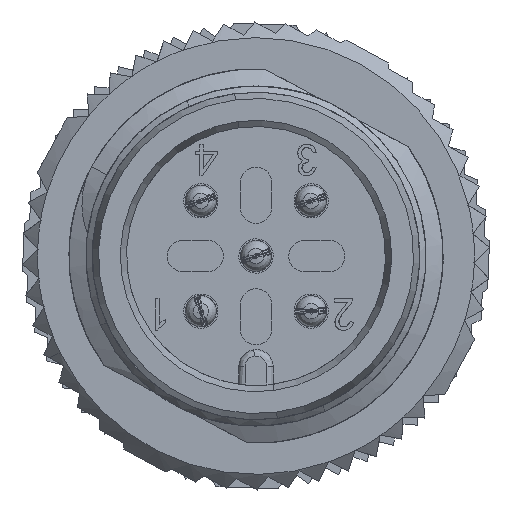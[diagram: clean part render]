
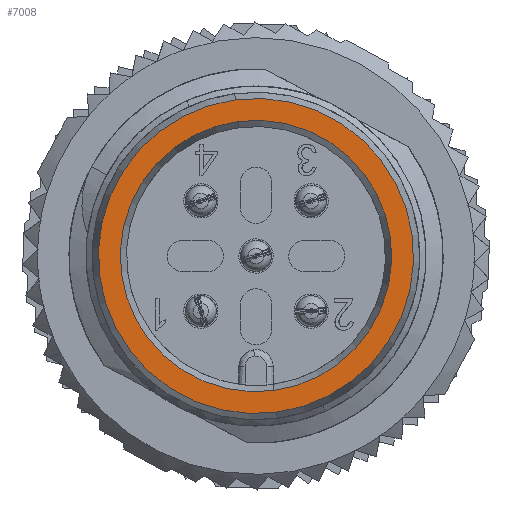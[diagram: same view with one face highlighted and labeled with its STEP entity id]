
A CAD part, left-side view. The second image highlights one B-rep face of the part: STEP entity #7008.
In plain terms, the highlighted planar face has unit normal (-1, 0, 0).
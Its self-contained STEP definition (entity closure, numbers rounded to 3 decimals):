
#1059 = AXIS2_PLACEMENT_3D ( 'NONE', #5084, #4355, #49909 ) ;
#1555 = CARTESIAN_POINT ( 'NONE',  ( -175.027, 0., -0.256 ) ) ;
#4061 = AXIS2_PLACEMENT_3D ( 'NONE', #1555, #25071, #8151 ) ;
#4355 = DIRECTION ( 'NONE',  ( 1., 0., 0. ) ) ;
#5084 = CARTESIAN_POINT ( 'NONE',  ( -175.027, 0., -0.256 ) ) ;
#5790 = VERTEX_POINT ( 'NONE', #68508 ) ;
#7008 = ADVANCED_FACE ( 'NONE', ( #48905, #38621 ), #65812, .T. ) ;
#8151 = DIRECTION ( 'NONE',  ( 0., -0.13, -0.991 ) ) ;
#10008 = EDGE_CURVE ( 'NONE', #10242, #17275, #58017, .T. ) ;
#10180 = DIRECTION ( 'NONE',  ( 1., 0., 0. ) ) ;
#10242 = VERTEX_POINT ( 'NONE', #35908 ) ;
#12309 = AXIS2_PLACEMENT_3D ( 'NONE', #72646, #10180, #65671 ) ;
#17275 = VERTEX_POINT ( 'NONE', #36383 ) ;
#18384 = AXIS2_PLACEMENT_3D ( 'NONE', #37906, #66894, #32394 ) ;
#19855 = CIRCLE ( 'NONE', #1059, 4.35 ) ;
#23396 = CIRCLE ( 'NONE', #25743, 5.05 ) ;
#24938 = EDGE_CURVE ( 'NONE', #62959, #5790, #52206, .T. ) ;
#25071 = DIRECTION ( 'NONE',  ( 1., 0., 0. ) ) ;
#25232 = DIRECTION ( 'NONE',  ( 0., -0.13, -0.991 ) ) ;
#25743 = AXIS2_PLACEMENT_3D ( 'NONE', #60457, #31117, #25232 ) ;
#31117 = DIRECTION ( 'NONE',  ( 1., 0., 0. ) ) ;
#32394 = DIRECTION ( 'NONE',  ( 0., 1., 0. ) ) ;
#35849 = EDGE_CURVE ( 'NONE', #5790, #62959, #19855, .T. ) ;
#35908 = CARTESIAN_POINT ( 'NONE',  ( -175.027, 0.659, 4.751 ) ) ;
#36383 = CARTESIAN_POINT ( 'NONE',  ( -175.027, -0.659, -5.262 ) ) ;
#37906 = CARTESIAN_POINT ( 'NONE',  ( -175.027, -3.324, 3.068 ) ) ;
#38621 = FACE_BOUND ( 'NONE', #39212, .T. ) ;
#39212 = EDGE_LOOP ( 'NONE', ( #40086, #66396 ) ) ;
#40086 = ORIENTED_EDGE ( 'NONE', *, *, #35849, .T. ) ;
#40373 = CARTESIAN_POINT ( 'NONE',  ( -175.027, -0.568, -4.568 ) ) ;
#40667 = EDGE_LOOP ( 'NONE', ( #65599, #45732 ) ) ;
#45732 = ORIENTED_EDGE ( 'NONE', *, *, #10008, .F. ) ;
#48905 = FACE_OUTER_BOUND ( 'NONE', #40667, .T. ) ;
#49909 = DIRECTION ( 'NONE',  ( 0., 0.13, 0.991 ) ) ;
#52206 = CIRCLE ( 'NONE', #12309, 4.35 ) ;
#58017 = CIRCLE ( 'NONE', #4061, 5.05 ) ;
#60457 = CARTESIAN_POINT ( 'NONE',  ( -175.027, 0., -0.256 ) ) ;
#62959 = VERTEX_POINT ( 'NONE', #40373 ) ;
#65599 = ORIENTED_EDGE ( 'NONE', *, *, #70819, .F. ) ;
#65671 = DIRECTION ( 'NONE',  ( 0., 0.13, 0.991 ) ) ;
#65812 = PLANE ( 'NONE',  #18384 ) ;
#66396 = ORIENTED_EDGE ( 'NONE', *, *, #24938, .T. ) ;
#66894 = DIRECTION ( 'NONE',  ( -1., 0., 0. ) ) ;
#68508 = CARTESIAN_POINT ( 'NONE',  ( -175.027, 0.568, 4.057 ) ) ;
#70819 = EDGE_CURVE ( 'NONE', #17275, #10242, #23396, .T. ) ;
#72646 = CARTESIAN_POINT ( 'NONE',  ( -175.027, 0., -0.256 ) ) ;
